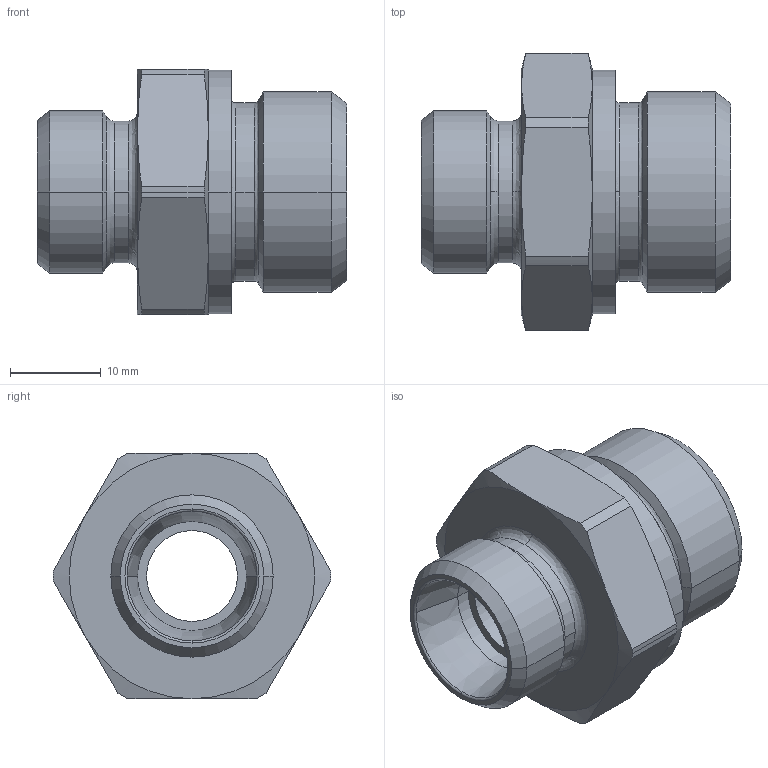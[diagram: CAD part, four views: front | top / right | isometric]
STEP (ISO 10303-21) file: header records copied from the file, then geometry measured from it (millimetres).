
FILE_DESCRIPTION((''),'2;1');
FILE_NAME('100927.stp','2007-10-30T15:33:35',(''),(''),'AutoCAD STEP 2000i','AutoCAD 2000i',', , ');
FILE_SCHEMA(('CONFIG_CONTROL_DESIGN'));
Length unit declared in the file: millimetre
Products named in the file (2): 100927.0; CHIAVE SMUSSATA#0
Assembly tree (1 placements, depth 2):
  100927.0
    CHIAVE SMUSSATA#0
Bounding box: 34 x 30.5 x 27 mm (x, y, z)
Volume: 10290.6 mm3; surface area: 4596.2 mm2
Topology: 1 solids, 1 shells, 68 faces, 165 edges, 103 vertices
Faces by surface type: cone 24, cylinder 22, plane 12, bspline 8, torus 2
Entity records: 2431 total; most frequent: CARTESIAN_POINT 738, DIRECTION 366, ORIENTED_EDGE 330, EDGE_CURVE 165, AXIS2_PLACEMENT_3D 163, VERTEX_POINT 103, CIRCLE 101, EDGE_LOOP 74
